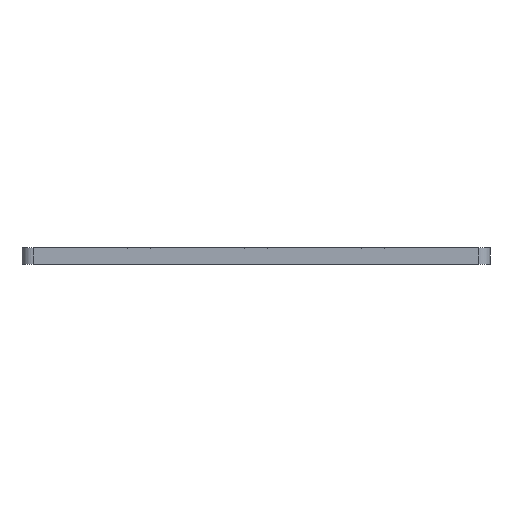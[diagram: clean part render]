
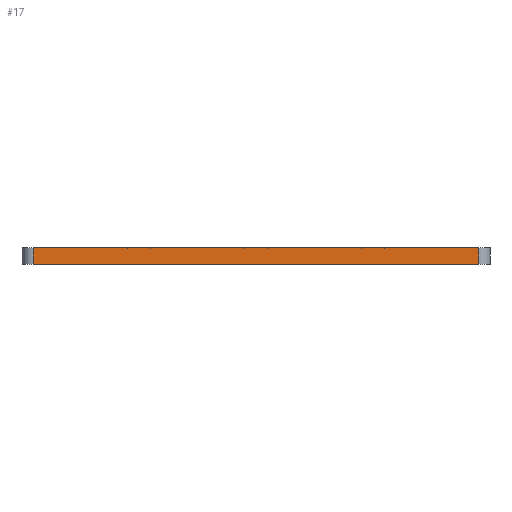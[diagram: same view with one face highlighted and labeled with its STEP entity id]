
A CAD part, left-side view. The second image highlights one B-rep face of the part: STEP entity #17.
In plain terms, the highlighted planar face has unit normal (-1, 0, 0).
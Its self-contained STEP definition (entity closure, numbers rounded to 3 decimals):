
#17 = ADVANCED_FACE('',(#18),#32,.T.);
#18 = FACE_BOUND('',#19,.T.);
#19 = EDGE_LOOP('',(#20,#55,#83,#111));
#20 = ORIENTED_EDGE('',*,*,#21,.T.);
#21 = EDGE_CURVE('',#22,#24,#26,.T.);
#22 = VERTEX_POINT('',#23);
#23 = CARTESIAN_POINT('',(-105.,-80.,0.));
#24 = VERTEX_POINT('',#25);
#25 = CARTESIAN_POINT('',(-105.,-80.,6.));
#26 = SURFACE_CURVE('',#27,(#31,#43),.PCURVE_S1.);
#27 = LINE('',#28,#29);
#28 = CARTESIAN_POINT('',(-105.,-80.,0.));
#29 = VECTOR('',#30,1.);
#30 = DIRECTION('',(0.,0.,1.));
#31 = PCURVE('',#32,#37);
#32 = PLANE('',#33);
#33 = AXIS2_PLACEMENT_3D('',#34,#35,#36);
#34 = CARTESIAN_POINT('',(-105.,-80.,0.));
#35 = DIRECTION('',(-1.,0.,0.));
#36 = DIRECTION('',(0.,1.,0.));
#37 = DEFINITIONAL_REPRESENTATION('',(#38),#42);
#38 = LINE('',#39,#40);
#39 = CARTESIAN_POINT('',(0.,0.));
#40 = VECTOR('',#41,1.);
#41 = DIRECTION('',(0.,-1.));
#42 = ( GEOMETRIC_REPRESENTATION_CONTEXT(2) 
PARAMETRIC_REPRESENTATION_CONTEXT() REPRESENTATION_CONTEXT('2D SPACE',''
  ) );
#43 = PCURVE('',#44,#49);
#44 = CYLINDRICAL_SURFACE('',#45,4.);
#45 = AXIS2_PLACEMENT_3D('',#46,#47,#48);
#46 = CARTESIAN_POINT('',(-101.,-80.,0.));
#47 = DIRECTION('',(0.,0.,-1.));
#48 = DIRECTION('',(-1.,0.,0.));
#49 = DEFINITIONAL_REPRESENTATION('',(#50),#54);
#50 = LINE('',#51,#52);
#51 = CARTESIAN_POINT('',(6.283,0.));
#52 = VECTOR('',#53,1.);
#53 = DIRECTION('',(0.,-1.));
#54 = ( GEOMETRIC_REPRESENTATION_CONTEXT(2) 
PARAMETRIC_REPRESENTATION_CONTEXT() REPRESENTATION_CONTEXT('2D SPACE',''
  ) );
#55 = ORIENTED_EDGE('',*,*,#56,.T.);
#56 = EDGE_CURVE('',#24,#57,#59,.T.);
#57 = VERTEX_POINT('',#58);
#58 = CARTESIAN_POINT('',(-105.,80.,6.));
#59 = SURFACE_CURVE('',#60,(#64,#71),.PCURVE_S1.);
#60 = LINE('',#61,#62);
#61 = CARTESIAN_POINT('',(-105.,0.,6.));
#62 = VECTOR('',#63,1.);
#63 = DIRECTION('',(0.,1.,0.));
#64 = PCURVE('',#32,#65);
#65 = DEFINITIONAL_REPRESENTATION('',(#66),#70);
#66 = LINE('',#67,#68);
#67 = CARTESIAN_POINT('',(80.,-6.));
#68 = VECTOR('',#69,1.);
#69 = DIRECTION('',(1.,0.));
#70 = ( GEOMETRIC_REPRESENTATION_CONTEXT(2) 
PARAMETRIC_REPRESENTATION_CONTEXT() REPRESENTATION_CONTEXT('2D SPACE',''
  ) );
#71 = PCURVE('',#72,#77);
#72 = PLANE('',#73);
#73 = AXIS2_PLACEMENT_3D('',#74,#75,#76);
#74 = CARTESIAN_POINT('',(0.,0.,6.));
#75 = DIRECTION('',(0.,0.,1.));
#76 = DIRECTION('',(1.,0.,0.));
#77 = DEFINITIONAL_REPRESENTATION('',(#78),#82);
#78 = LINE('',#79,#80);
#79 = CARTESIAN_POINT('',(-105.,0.));
#80 = VECTOR('',#81,1.);
#81 = DIRECTION('',(0.,1.));
#82 = ( GEOMETRIC_REPRESENTATION_CONTEXT(2) 
PARAMETRIC_REPRESENTATION_CONTEXT() REPRESENTATION_CONTEXT('2D SPACE',''
  ) );
#83 = ORIENTED_EDGE('',*,*,#84,.F.);
#84 = EDGE_CURVE('',#85,#57,#87,.T.);
#85 = VERTEX_POINT('',#86);
#86 = CARTESIAN_POINT('',(-105.,80.,0.));
#87 = SURFACE_CURVE('',#88,(#92,#99),.PCURVE_S1.);
#88 = LINE('',#89,#90);
#89 = CARTESIAN_POINT('',(-105.,80.,0.));
#90 = VECTOR('',#91,1.);
#91 = DIRECTION('',(0.,0.,1.));
#92 = PCURVE('',#32,#93);
#93 = DEFINITIONAL_REPRESENTATION('',(#94),#98);
#94 = LINE('',#95,#96);
#95 = CARTESIAN_POINT('',(160.,0.));
#96 = VECTOR('',#97,1.);
#97 = DIRECTION('',(0.,-1.));
#98 = ( GEOMETRIC_REPRESENTATION_CONTEXT(2) 
PARAMETRIC_REPRESENTATION_CONTEXT() REPRESENTATION_CONTEXT('2D SPACE',''
  ) );
#99 = PCURVE('',#100,#105);
#100 = CYLINDRICAL_SURFACE('',#101,4.);
#101 = AXIS2_PLACEMENT_3D('',#102,#103,#104);
#102 = CARTESIAN_POINT('',(-101.,80.,0.));
#103 = DIRECTION('',(0.,0.,-1.));
#104 = DIRECTION('',(-1.,0.,0.));
#105 = DEFINITIONAL_REPRESENTATION('',(#106),#110);
#106 = LINE('',#107,#108);
#107 = CARTESIAN_POINT('',(0.,0.));
#108 = VECTOR('',#109,1.);
#109 = DIRECTION('',(0.,-1.));
#110 = ( GEOMETRIC_REPRESENTATION_CONTEXT(2) 
PARAMETRIC_REPRESENTATION_CONTEXT() REPRESENTATION_CONTEXT('2D SPACE',''
  ) );
#111 = ORIENTED_EDGE('',*,*,#112,.F.);
#112 = EDGE_CURVE('',#22,#85,#113,.T.);
#113 = SURFACE_CURVE('',#114,(#118,#125),.PCURVE_S1.);
#114 = LINE('',#115,#116);
#115 = CARTESIAN_POINT('',(-105.,0.,0.));
#116 = VECTOR('',#117,1.);
#117 = DIRECTION('',(0.,1.,0.));
#118 = PCURVE('',#32,#119);
#119 = DEFINITIONAL_REPRESENTATION('',(#120),#124);
#120 = LINE('',#121,#122);
#121 = CARTESIAN_POINT('',(80.,0.));
#122 = VECTOR('',#123,1.);
#123 = DIRECTION('',(1.,0.));
#124 = ( GEOMETRIC_REPRESENTATION_CONTEXT(2) 
PARAMETRIC_REPRESENTATION_CONTEXT() REPRESENTATION_CONTEXT('2D SPACE',''
  ) );
#125 = PCURVE('',#126,#131);
#126 = PLANE('',#127);
#127 = AXIS2_PLACEMENT_3D('',#128,#129,#130);
#128 = CARTESIAN_POINT('',(0.,0.,0.));
#129 = DIRECTION('',(0.,0.,1.));
#130 = DIRECTION('',(1.,0.,0.));
#131 = DEFINITIONAL_REPRESENTATION('',(#132),#136);
#132 = LINE('',#133,#134);
#133 = CARTESIAN_POINT('',(-105.,0.));
#134 = VECTOR('',#135,1.);
#135 = DIRECTION('',(0.,1.));
#136 = ( GEOMETRIC_REPRESENTATION_CONTEXT(2) 
PARAMETRIC_REPRESENTATION_CONTEXT() REPRESENTATION_CONTEXT('2D SPACE',''
  ) );
